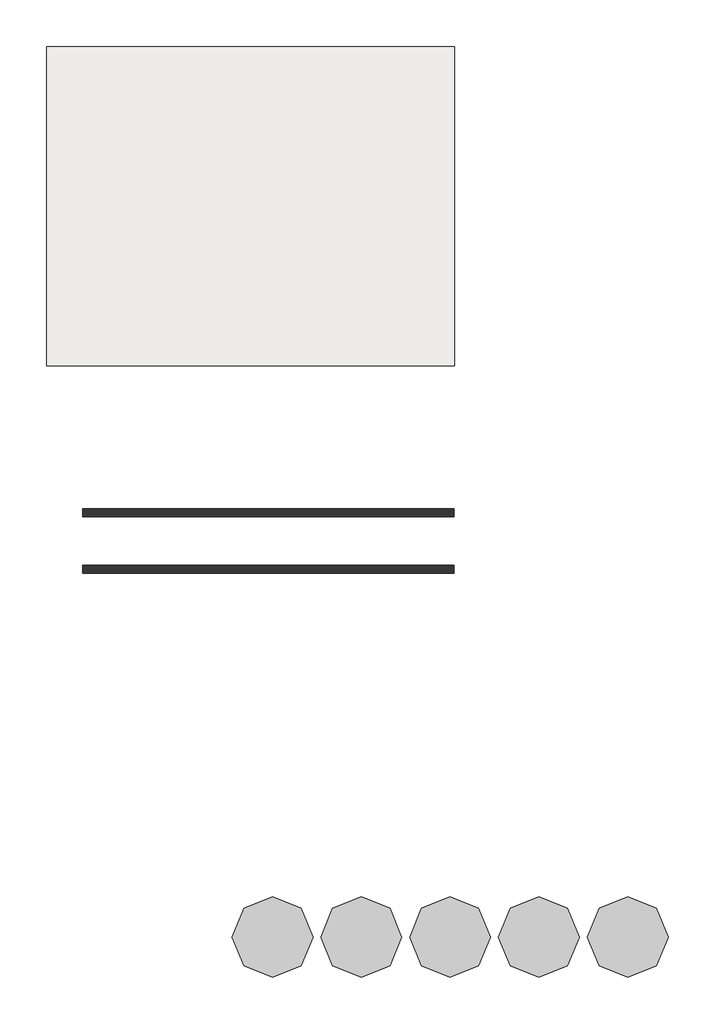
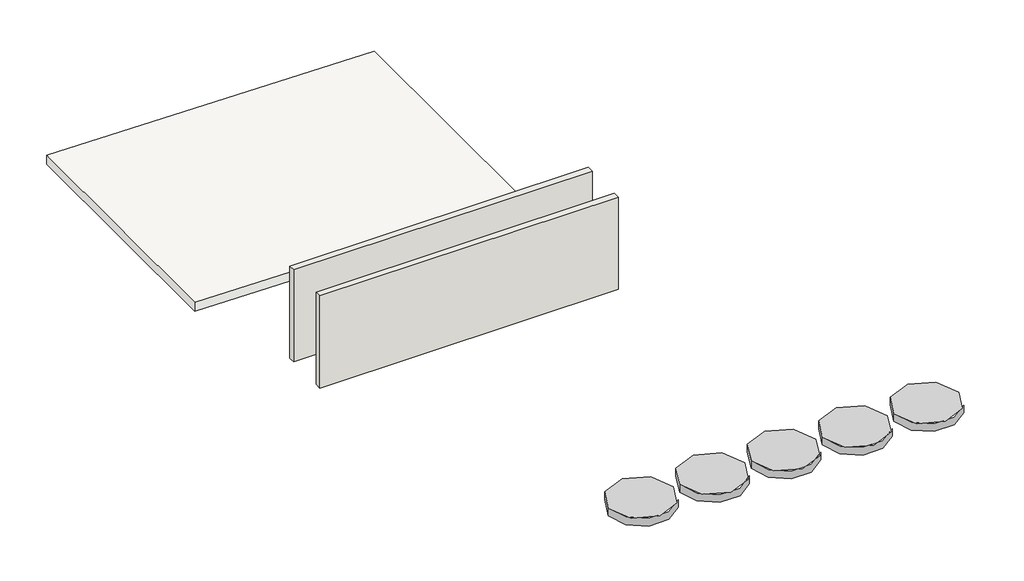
# One storey: 5 proxies, 2 walls, 1 slab.
"""IFC4 building model written with IfcOpenShell, lengths in millimetres."""

from ifc_helpers import new_model, si_unit, frame, origin, place, context, project, spatial, polyline, outline, extrude, transform, mapped, element, save
from components import generic_models_96fdaab5

model = new_model("IFC4")

# Units and contexts
model_context = context("Model", 3, world=origin())
ifc_project = project(units=[si_unit("LENGTHUNIT", "METRE", prefix="MILLI")], contexts=[model_context])

# Site, building, storey
site = spatial("IfcSite", under=ifc_project)
building = spatial("IfcBuilding", under=site)
storey = spatial("IfcBuildingStorey", under=building, Name="标高 2", Elevation=3000.0)

# Proxies
placement = place(None, origin())
generic_models_shape = generic_models_96fdaab5(model_context)
element("IfcBuildingElementProxy", 1, Name="公制常规模型 : 公制常规模型", ObjectType="公制常规模型 : 公制常规模型", at=placement, inside=storey, context=model_context, shape_type="MappedRepresentation", body=[
    mapped(generic_models_shape, transform((-345.836211, -24017.1255081, 3000.0), x_axis=(1.0, 0.0, 0.0), y_axis=(0.0, 1.0, 0.0), z_axis=(0.0, 0.0, 1.0))),
])
element("IfcBuildingElementProxy", 2, Name="公制常规模型 : 公制常规模型", ObjectType="公制常规模型 : 公制常规模型", at=placement, inside=storey, context=model_context, shape_type="MappedRepresentation", body=[
    mapped(generic_models_shape, transform((1854.163789, -24017.1255081, 3000.0), x_axis=(1.0, 0.0, 0.0), y_axis=(0.0, 1.0, 0.0), z_axis=(0.0, 0.0, 1.0))),
])
element("IfcBuildingElementProxy", 3, Name="公制常规模型 : 公制常规模型", ObjectType="公制常规模型 : 公制常规模型", at=placement, inside=storey, context=model_context, shape_type="MappedRepresentation", body=[
    mapped(generic_models_shape, transform((4054.163789, -24017.1255081, 3000.0), x_axis=(1.0, 0.0, 0.0), y_axis=(0.0, 1.0, 0.0), z_axis=(0.0, 0.0, 1.0))),
])
element("IfcBuildingElementProxy", 4, Name="公制常规模型 : 公制常规模型", ObjectType="公制常规模型 : 公制常规模型", at=placement, inside=storey, context=model_context, shape_type="MappedRepresentation", body=[
    mapped(generic_models_shape, transform((6254.163789, -24017.1255081, 3000.0), x_axis=(1.0, 0.0, 0.0), y_axis=(0.0, 1.0, 0.0), z_axis=(0.0, 0.0, 1.0))),
])
element("IfcBuildingElementProxy", 5, Name="公制常规模型 : 公制常规模型", ObjectType="公制常规模型 : 公制常规模型", at=placement, inside=storey, context=model_context, shape_type="MappedRepresentation", body=[
    mapped(generic_models_shape, transform((8454.163789, -24017.1255081, 3000.0), x_axis=(1.0, 0.0, 0.0), y_axis=(0.0, 1.0, 0.0), z_axis=(0.0, 0.0, 1.0))),
])

# Slab
element("IfcSlab", 6, ObjectType="常规 - 300mm", at=placement, inside=storey, context=model_context, shape_type="SweptSolid", body=[
    extrude(outline(polyline([(2550.0, 4158.9331684), (2850.0, 4158.9331684), (3000.0, -5941.0668316), (2700.0, -5941.0668316), (2550.0, 4158.9331684)])), frame((0.0, -9878.9609184, 0.0), z_axis=(0.0, 1.0, 0.0), x_axis=(0.0, 0.0, 1.0)), (0.0, 0.0, 1.0), 7900.0),
])

# Walls
element("IfcWall", 7, ObjectType="常规 - 200mm", at=placement, inside=storey, context=model_context, shape_type="SweptSolid", body=[
    extrude(outline(polyline([(4154.163789, -13617.1255081), (-5045.836211, -13617.1255081), (-5045.836211, -13417.1255081), (4154.163789, -13417.1255081), (4154.163789, -13617.1255081)])), frame((0.0, 0.0, 3000.0), z_axis=(0.0, 0.0, 1.0), x_axis=(1.0, 0.0, 0.0)), (0.0, 0.0, 1.0), 3000.0),
])
element("IfcWall", 8, ObjectType="常规 - 200mm", at=placement, inside=storey, context=model_context, shape_type="SweptSolid", body=[
    extrude(outline(polyline([(4154.163789, -15017.1255081), (-5045.836211, -15017.1255081), (-5045.836211, -14817.1255081), (4154.163789, -14817.1255081), (4154.163789, -15017.1255081)])), frame((0.0, 0.0, 3000.0), z_axis=(0.0, 0.0, 1.0), x_axis=(1.0, 0.0, 0.0)), (0.0, 0.0, 1.0), 3000.0),
])

save(model, "model.ifc")
